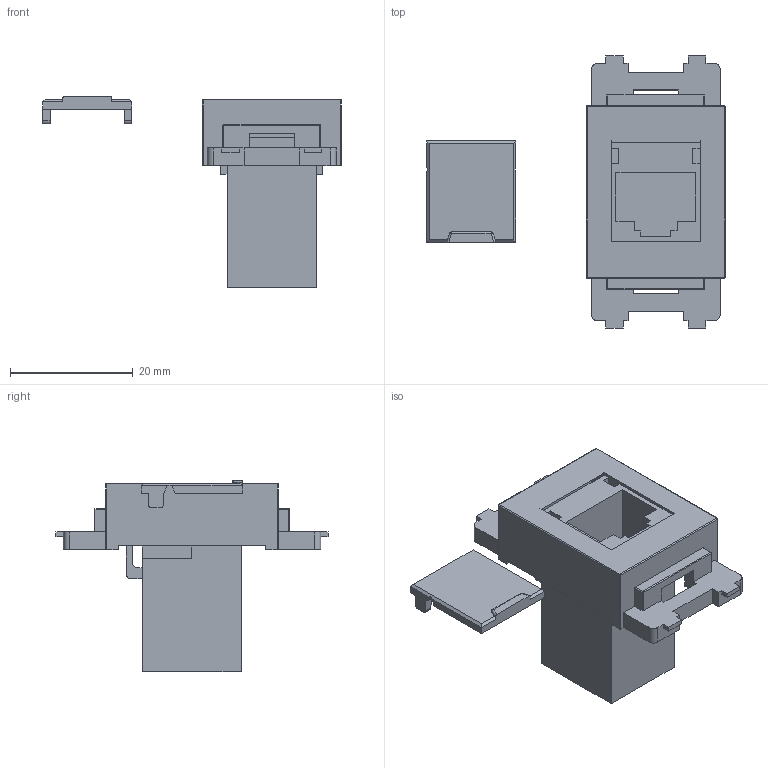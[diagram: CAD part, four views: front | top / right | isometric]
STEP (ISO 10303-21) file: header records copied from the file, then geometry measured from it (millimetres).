
FILE_DESCRIPTION(('FreeCAD Model'),'2;1');
FILE_NAME('Open CASCADE Shape Model','2026-05-12T09:39:13',(''),(''), 'Open CASCADE STEP processor 7.8','FreeCAD','Unknown');
FILE_SCHEMA(('AUTOMOTIVE_DESIGN { 1 0 10303 214 1 1 1 1 }'));
Length unit declared in the file: millimetre
Products named in the file (3): CC_C6_CV_WH_KV; SY-NWT-KV-xx; SY-350C8
Assembly tree (2 placements, depth 2):
  CC_C6_CV_WH_KV
    SY-NWT-KV-xx
    SY-350C8
Bounding box: 48.62 x 44.3 x 31.15 mm (x, y, z)
Volume: 8924.8 mm3; surface area: 8678.2 mm2
Topology: 3 solids, 3 shells, 246 faces, 1291 edges, 2914 vertices
Faces by surface type: bspline 246
Entity records: 20727 total; most frequent: CARTESIAN_POINT 12885, ORIENTED_EDGE 1342, B_SPLINE_CURVE_WITH_KNOTS 1291, EDGE_CURVE 671, GEOMETRIC_CURVE_SET 621, TRIMMED_CURVE 620, VERTEX_POINT 434, FACE_BOUND 255
